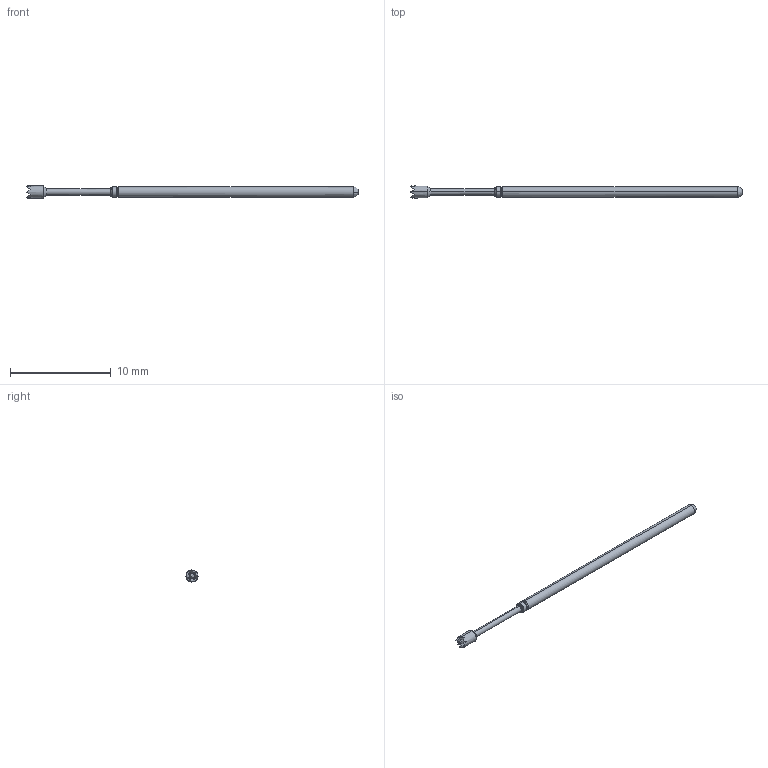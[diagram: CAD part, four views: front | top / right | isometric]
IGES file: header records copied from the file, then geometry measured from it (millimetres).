
Start section: SolidWorks IGES file using analytic representation for surfaces
Global section: file name: \\CODA-VM-SBS\RedirectedFolders\georged\My Documents\CODA FILES NEW\ATE TEST PROBES\LPA2 & ST-LPA2 SERIES\LPA2H.IGS; native system: SolidWorks 2022; preprocessor: SolidWorks 2022; author: GeorgeD; date: 230605.115955; units: inch
Bounding box: 33.02 x 1.19 x 1.19 mm (x, y, z)
Surface area: 100.4 mm2 (no closed solid volume)
Topology: 0 solids, 0 shells, 50 faces, 255 edges, 255 vertices
Faces by surface type: bspline 50
